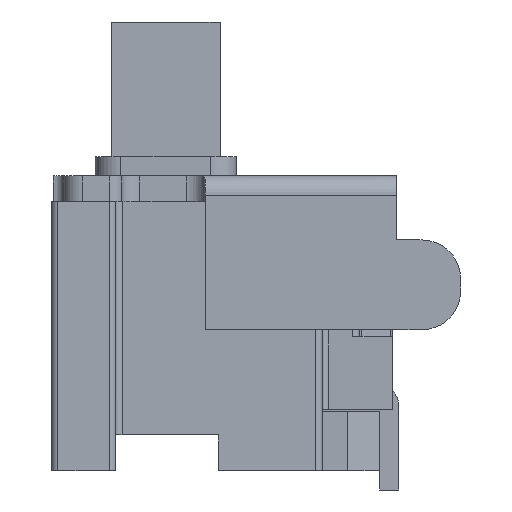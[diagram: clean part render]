
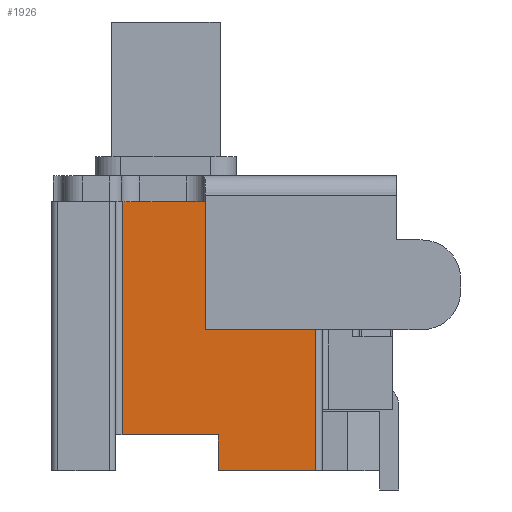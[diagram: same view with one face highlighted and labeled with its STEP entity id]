
A CAD part, left-side view. The second image highlights one B-rep face of the part: STEP entity #1926.
In plain terms, the highlighted planar face has unit normal (-1, 0, 0).
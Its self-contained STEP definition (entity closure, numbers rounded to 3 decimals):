
#89 = VERTEX_POINT ( 'NONE', #13801 ) ;
#428 = VERTEX_POINT ( 'NONE', #13419 ) ;
#747 = DIRECTION ( 'NONE',  ( 0., 1., 0. ) ) ;
#1926 = ADVANCED_FACE ( 'NONE', ( #16503 ), #17961, .F. ) ;
#1976 = ORIENTED_EDGE ( 'NONE', *, *, #4652, .T. ) ;
#2012 = VECTOR ( 'NONE', #7063, 1000. ) ;
#2691 = LINE ( 'NONE', #9627, #16062 ) ;
#2848 = CARTESIAN_POINT ( 'NONE',  ( -2.075, 0.03, 0. ) ) ;
#2973 = EDGE_CURVE ( 'NONE', #89, #9981, #3387, .T. ) ;
#3181 = AXIS2_PLACEMENT_3D ( 'NONE', #4255, #7012, #5633 ) ;
#3387 = LINE ( 'NONE', #7682, #4910 ) ;
#3796 = CARTESIAN_POINT ( 'NONE',  ( -2.075, 0.03, 0.28 ) ) ;
#4035 = CARTESIAN_POINT ( 'NONE',  ( -2.075, -0.73, 2.1 ) ) ;
#4255 = CARTESIAN_POINT ( 'NONE',  ( -2.075, 0.83, 0. ) ) ;
#4434 = EDGE_CURVE ( 'NONE', #428, #9981, #6453, .T. ) ;
#4652 = EDGE_CURVE ( 'NONE', #9921, #10943, #15304, .T. ) ;
#4910 = VECTOR ( 'NONE', #747, 1000. ) ;
#5441 = ORIENTED_EDGE ( 'NONE', *, *, #2973, .F. ) ;
#5462 = VECTOR ( 'NONE', #16911, 1000. ) ;
#5633 = DIRECTION ( 'NONE',  ( 0., 1., 0. ) ) ;
#5825 = EDGE_CURVE ( 'NONE', #428, #12949, #6789, .T. ) ;
#6267 = DIRECTION ( 'NONE',  ( 0., 0., -1. ) ) ;
#6453 = LINE ( 'NONE', #3796, #17761 ) ;
#6789 = LINE ( 'NONE', #13999, #2012 ) ;
#7012 = DIRECTION ( 'NONE',  ( 1., 0., 0. ) ) ;
#7063 = DIRECTION ( 'NONE',  ( 0., 1., 0. ) ) ;
#7363 = EDGE_LOOP ( 'NONE', ( #1976, #16274, #13843, #8463, #5441, #11012 ) ) ;
#7682 = CARTESIAN_POINT ( 'NONE',  ( -2.075, 0.83, 0. ) ) ;
#8138 = VECTOR ( 'NONE', #9451, 1000. ) ;
#8463 = ORIENTED_EDGE ( 'NONE', *, *, #4434, .T. ) ;
#8499 = EDGE_CURVE ( 'NONE', #10943, #12949, #15538, .T. ) ;
#9451 = DIRECTION ( 'NONE',  ( 0., 1., 0. ) ) ;
#9606 = CARTESIAN_POINT ( 'NONE',  ( -2.075, 0.78, 0.28 ) ) ;
#9627 = CARTESIAN_POINT ( 'NONE',  ( -2.075, -0.73, 0. ) ) ;
#9867 = CARTESIAN_POINT ( 'NONE',  ( -2.075, 0.78, 0.28 ) ) ;
#9921 = VERTEX_POINT ( 'NONE', #4035 ) ;
#9981 = VERTEX_POINT ( 'NONE', #2848 ) ;
#10943 = VERTEX_POINT ( 'NONE', #15819 ) ;
#11012 = ORIENTED_EDGE ( 'NONE', *, *, #13733, .T. ) ;
#12181 = DIRECTION ( 'NONE',  ( 0., 0., 1. ) ) ;
#12949 = VERTEX_POINT ( 'NONE', #9606 ) ;
#13419 = CARTESIAN_POINT ( 'NONE',  ( -2.075, 0.03, 0.28 ) ) ;
#13733 = EDGE_CURVE ( 'NONE', #89, #9921, #2691, .T. ) ;
#13801 = CARTESIAN_POINT ( 'NONE',  ( -2.075, -0.73, 0. ) ) ;
#13843 = ORIENTED_EDGE ( 'NONE', *, *, #5825, .F. ) ;
#13999 = CARTESIAN_POINT ( 'NONE',  ( -2.075, 0.83, 0.28 ) ) ;
#15304 = LINE ( 'NONE', #15390, #8138 ) ;
#15390 = CARTESIAN_POINT ( 'NONE',  ( -2.075, 0.83, 2.1 ) ) ;
#15538 = LINE ( 'NONE', #9867, #5462 ) ;
#15819 = CARTESIAN_POINT ( 'NONE',  ( -2.075, 0.78, 2.1 ) ) ;
#16062 = VECTOR ( 'NONE', #12181, 1000. ) ;
#16274 = ORIENTED_EDGE ( 'NONE', *, *, #8499, .T. ) ;
#16503 = FACE_OUTER_BOUND ( 'NONE', #7363, .T. ) ;
#16911 = DIRECTION ( 'NONE',  ( 0., 0., -1. ) ) ;
#17761 = VECTOR ( 'NONE', #6267, 1000. ) ;
#17961 = PLANE ( 'NONE',  #3181 ) ;
